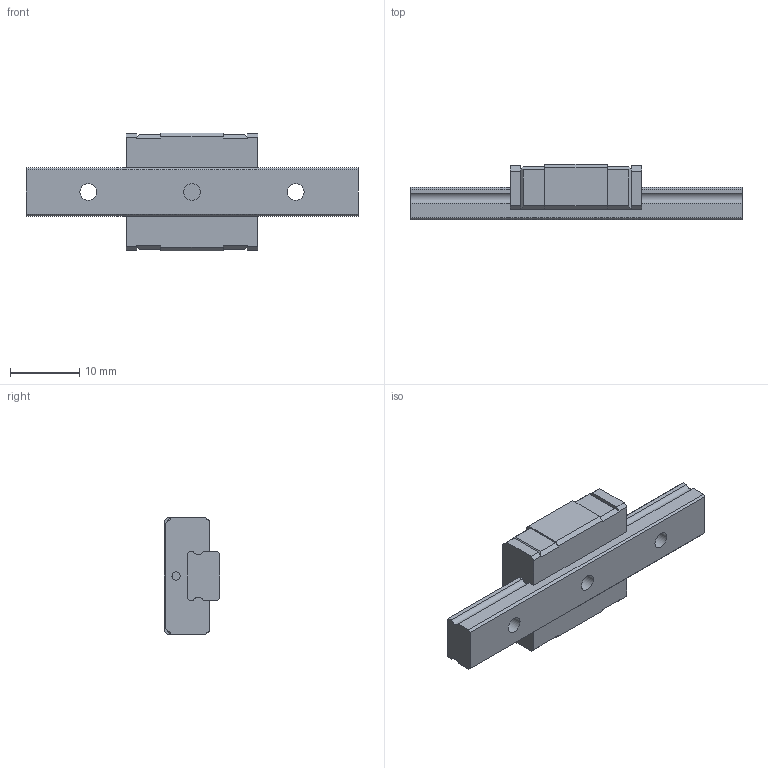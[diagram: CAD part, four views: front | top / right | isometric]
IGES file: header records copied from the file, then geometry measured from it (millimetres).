
Start section: Data from Parasolid IGES Translator 26.0.171, Copyright(c) 2006 Siemens PLM Software. All Rights Reserved.
Global section: file name: RSX7SMUU-48LM_G9_0_Without grease nipple_14-5_0_0_0_1.igs; native system: By Siemens PLM Incorporated; preprocessor: XPlus GENERIC/IGES 26.0.171; author: Noname; organization: Noname; date: 20240521.102504; units: millimetre
Bounding box: 48 x 8 x 17 mm (x, y, z)
Surface area: 2562.5 mm2 (no closed solid volume)
Topology: 0 solids, 0 shells, 93 faces, 502 edges, 484 vertices
Faces by surface type: extrusion 73, revolution 20
